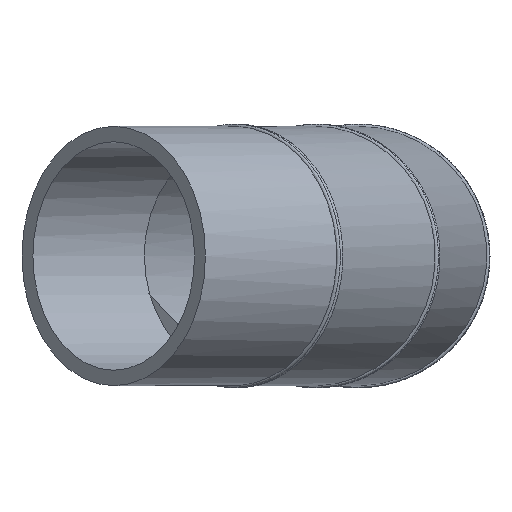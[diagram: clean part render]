
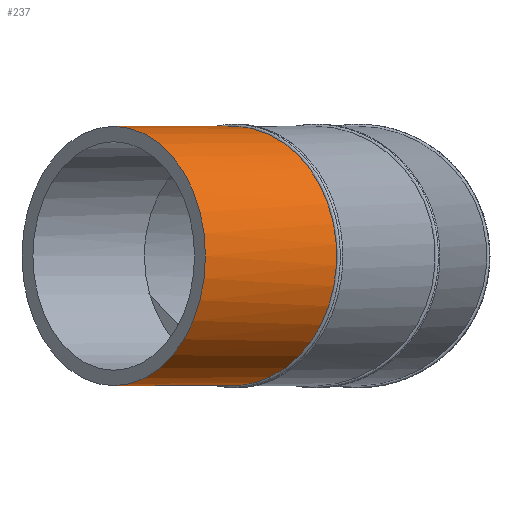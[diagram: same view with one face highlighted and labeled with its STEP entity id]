
A CAD part, front view. The second image highlights one B-rep face of the part: STEP entity #237.
In plain terms, the highlighted cylindrical face has radius 250 mm (diameter 500 mm), a full revolution.
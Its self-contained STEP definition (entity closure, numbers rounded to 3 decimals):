
#41=B_SPLINE_CURVE_WITH_KNOTS('',3,(#403,#404,#405,#406,#407,#408,#409,
#410,#411,#412,#413,#414,#415,#416,#417,#418,#419,#420,#421,#422,#423,#424,
#425,#426,#427,#428,#429,#430,#431,#432,#433,#434,#435,#436,#437,#438,#439,
#440,#441,#442,#443,#444,#445,#446,#447,#448,#449,#450,#451,#452,#453,#454,
#455,#456,#457,#458,#459,#460,#461,#462,#463,#464,#465,#466,#467,#468,#469,
#470,#471,#472,#473,#474,#475,#476,#477,#478,#479,#480,#481,#482,#483,#484,
#485,#486,#487,#488,#489,#490,#491,#492,#493,#494,#495,#496,#497),
 .UNSPECIFIED.,.T.,.F.,(1,1,1,1,1,1,1,1,1,1,1,1,1,1,1,1,1,1,1,1,1,1,1,1,
1,1,1,1,1,1,1,1,1,1,1,1,1,1,1,1,1,1,1,1,1,1,1,1,1,1,1,1,1,1,1,1,1,1,1,1,
1,1,1,1,1,1,1,1,1,1,1,1,1,1,1,1,1,1,1,1,1,1,1,1,1,1,1,1,1,1,1,1,1,1,1,1,
1,1,1),(-0.037,-0.025,-0.012,0.,
0.012,0.025,0.05,0.062,
0.074,0.099,0.124,0.149,
0.161,0.173,0.198,0.223,0.235,
0.248,0.272,0.297,0.309,
0.322,0.334,0.347,0.359,0.371,
0.396,0.421,0.446,0.47,
0.483,0.495,0.507,0.52,
0.545,0.569,0.582,0.594,
0.606,0.619,0.631,0.644,
0.656,0.668,0.693,0.705,
0.718,0.743,0.767,0.78,
0.792,0.817,0.842,0.866,
0.879,0.891,0.903,0.916,
0.941,0.965,0.99,1.015,1.027,
1.04,1.052,1.064,1.089,1.114,
1.126,1.139,1.151,1.163,1.176,
1.188,1.213,1.238,1.25,1.262,
1.287,1.312,1.324,1.337,1.361,
1.386,1.411,1.423,1.436,1.448,
1.46,1.485,1.51,1.535,1.547,
1.559,1.572,1.584,1.596,1.609,
1.634),.UNSPECIFIED.);
#50=CYLINDRICAL_SURFACE('',#287,250.);
#82=ORIENTED_EDGE('',*,*,#134,.T.);
#83=ORIENTED_EDGE('',*,*,#127,.F.);
#127=EDGE_CURVE('',#153,#153,#173,.T.);
#134=EDGE_CURVE('',#160,#160,#41,.T.);
#153=VERTEX_POINT('',#388);
#160=VERTEX_POINT('',#498);
#173=CIRCLE('',#279,250.);
#179=EDGE_LOOP('',(#82));
#180=EDGE_LOOP('',(#83));
#207=FACE_BOUND('',#179,.T.);
#208=FACE_BOUND('',#180,.T.);
#237=ADVANCED_FACE('',(#207,#208),#50,.T.);
#279=AXIS2_PLACEMENT_3D('',#387,#317,#318);
#287=AXIS2_PLACEMENT_3D('',#402,#333,#334);
#317=DIRECTION('',(0.,1.,0.));
#318=DIRECTION('',(-1.,0.,0.));
#333=DIRECTION('',(0.,1.,0.));
#334=DIRECTION('',(-1.,0.,0.));
#387=CARTESIAN_POINT('',(1180.48,177.5,0.));
#388=CARTESIAN_POINT('',(930.48,177.5,0.));
#402=CARTESIAN_POINT('',(1180.48,-188.326,0.));
#403=CARTESIAN_POINT('',(930.684,-114.492,-12.359));
#404=CARTESIAN_POINT('',(930.378,-114.452,-0.005));
#405=CARTESIAN_POINT('',(930.685,-114.492,12.381));
#406=CARTESIAN_POINT('',(931.905,-114.653,28.8));
#407=CARTESIAN_POINT('',(934.347,-114.973,45.137));
#408=CARTESIAN_POINT('',(937.978,-115.451,61.187));
#409=CARTESIAN_POINT('',(942.409,-116.033,77.078));
#410=CARTESIAN_POINT('',(949.375,-116.948,96.403));
#411=CARTESIAN_POINT('',(960.017,-118.347,118.738));
#412=CARTESIAN_POINT('',(970.614,-119.739,136.288));
#413=CARTESIAN_POINT('',(980.144,-120.992,149.72));
#414=CARTESIAN_POINT('',(990.241,-122.319,162.558));
#415=CARTESIAN_POINT('',(1003.913,-124.116,177.541));
#416=CARTESIAN_POINT('',(1018.96,-126.094,191.12));
#417=CARTESIAN_POINT('',(1031.833,-127.787,201.133));
#418=CARTESIAN_POINT('',(1045.275,-129.554,210.564));
#419=CARTESIAN_POINT('',(1062.804,-131.859,221.027));
#420=CARTESIAN_POINT('',(1081.359,-134.3,229.765));
#421=CARTESIAN_POINT('',(1096.59,-136.304,235.611));
#422=CARTESIAN_POINT('',(1108.238,-137.836,239.44));
#423=CARTESIAN_POINT('',(1120.073,-139.393,242.696));
#424=CARTESIAN_POINT('',(1132.012,-140.964,245.358));
#425=CARTESIAN_POINT('',(1144.07,-142.551,247.436));
#426=CARTESIAN_POINT('',(1160.32,-144.69,249.42));
#427=CARTESIAN_POINT('',(1180.669,-147.369,250.401));
#428=CARTESIAN_POINT('',(1205.216,-150.601,249.173));
#429=CARTESIAN_POINT('',(1229.192,-153.758,245.605));
#430=CARTESIAN_POINT('',(1248.786,-156.339,240.726));
#431=CARTESIAN_POINT('',(1264.202,-158.37,235.67));
#432=CARTESIAN_POINT('',(1275.664,-159.88,231.28));
#433=CARTESIAN_POINT('',(1286.89,-161.359,226.333));
#434=CARTESIAN_POINT('',(1301.488,-163.283,219.03));
#435=CARTESIAN_POINT('',(1319.117,-165.607,208.521));
#436=CARTESIAN_POINT('',(1335.557,-167.773,196.389));
#437=CARTESIAN_POINT('',(1348.021,-169.417,185.69));
#438=CARTESIAN_POINT('',(1356.939,-170.593,177.235));
#439=CARTESIAN_POINT('',(1365.426,-171.712,168.36));
#440=CARTESIAN_POINT('',(1373.492,-172.775,159.05));
#441=CARTESIAN_POINT('',(1381.094,-173.777,149.347));
#442=CARTESIAN_POINT('',(1388.191,-174.714,139.307));
#443=CARTESIAN_POINT('',(1394.796,-175.585,128.916));
#444=CARTESIAN_POINT('',(1402.937,-176.658,114.592));
#445=CARTESIAN_POINT('',(1409.966,-177.586,99.773));
#446=CARTESIAN_POINT('',(1415.915,-178.37,84.387));
#447=CARTESIAN_POINT('',(1421.064,-179.049,68.819));
#448=CARTESIAN_POINT('',(1426.019,-179.703,49.078));
#449=CARTESIAN_POINT('',(1429.033,-180.101,28.951));
#450=CARTESIAN_POINT('',(1430.263,-180.263,12.626));
#451=CARTESIAN_POINT('',(1430.688,-180.319,-3.882));
#452=CARTESIAN_POINT('',(1429.694,-180.188,-24.409));
#453=CARTESIAN_POINT('',(1426.062,-179.709,-48.918));
#454=CARTESIAN_POINT('',(1421.06,-179.049,-68.848));
#455=CARTESIAN_POINT('',(1415.873,-178.365,-84.505));
#456=CARTESIAN_POINT('',(1411.425,-177.778,-95.993));
#457=CARTESIAN_POINT('',(1406.419,-177.118,-107.25));
#458=CARTESIAN_POINT('',(1398.984,-176.137,-121.96));
#459=CARTESIAN_POINT('',(1388.411,-174.743,-139.526));
#460=CARTESIAN_POINT('',(1373.64,-172.794,-159.343));
#461=CARTESIAN_POINT('',(1357.243,-170.633,-177.344));
#462=CARTESIAN_POINT('',(1342.216,-168.651,-190.936));
#463=CARTESIAN_POINT('',(1329.387,-166.96,-200.939));
#464=CARTESIAN_POINT('',(1319.328,-165.634,-208.018));
#465=CARTESIAN_POINT('',(1308.953,-164.267,-214.58));
#466=CARTESIAN_POINT('',(1294.74,-162.394,-222.624));
#467=CARTESIAN_POINT('',(1276.197,-159.95,-231.384));
#468=CARTESIAN_POINT('',(1256.996,-157.421,-238.248));
#469=CARTESIAN_POINT('',(1241.211,-155.341,-242.615));
#470=CARTESIAN_POINT('',(1229.268,-153.768,-245.295));
#471=CARTESIAN_POINT('',(1217.219,-152.182,-247.387));
#472=CARTESIAN_POINT('',(1205.046,-150.579,-248.891));
#473=CARTESIAN_POINT('',(1192.825,-148.969,-249.795));
#474=CARTESIAN_POINT('',(1176.534,-146.825,-250.202));
#475=CARTESIAN_POINT('',(1156.081,-144.132,-249.208));
#476=CARTESIAN_POINT('',(1135.926,-141.48,-246.236));
#477=CARTESIAN_POINT('',(1119.941,-139.376,-242.663));
#478=CARTESIAN_POINT('',(1104.253,-137.312,-238.337));
#479=CARTESIAN_POINT('',(1085.212,-134.807,-231.559));
#480=CARTESIAN_POINT('',(1066.909,-132.399,-222.973));
#481=CARTESIAN_POINT('',(1052.725,-130.534,-215.009));
#482=CARTESIAN_POINT('',(1038.827,-128.706,-206.282));
#483=CARTESIAN_POINT('',(1022.369,-126.542,-194.171));
#484=CARTESIAN_POINT('',(1004.033,-124.131,-177.675));
#485=CARTESIAN_POINT('',(990.233,-122.318,-162.555));
#486=CARTESIAN_POINT('',(980.065,-120.981,-149.615));
#487=CARTESIAN_POINT('',(972.952,-120.046,-139.58));
#488=CARTESIAN_POINT('',(966.339,-119.177,-129.206));
#489=CARTESIAN_POINT('',(958.18,-118.105,-114.895));
#490=CARTESIAN_POINT('',(949.358,-116.946,-96.364));
#491=CARTESIAN_POINT('',(940.972,-115.844,-73.07));
#492=CARTESIAN_POINT('',(935.954,-115.185,-53.157));
#493=CARTESIAN_POINT('',(933.114,-114.812,-36.895));
#494=CARTESIAN_POINT('',(931.597,-114.612,-24.655));
#495=CARTESIAN_POINT('',(930.684,-114.492,-12.359));
#496=CARTESIAN_POINT('',(930.378,-114.452,-0.005));
#497=CARTESIAN_POINT('',(930.685,-114.492,12.381));
#498=CARTESIAN_POINT('',(930.48,-114.465,0.));
